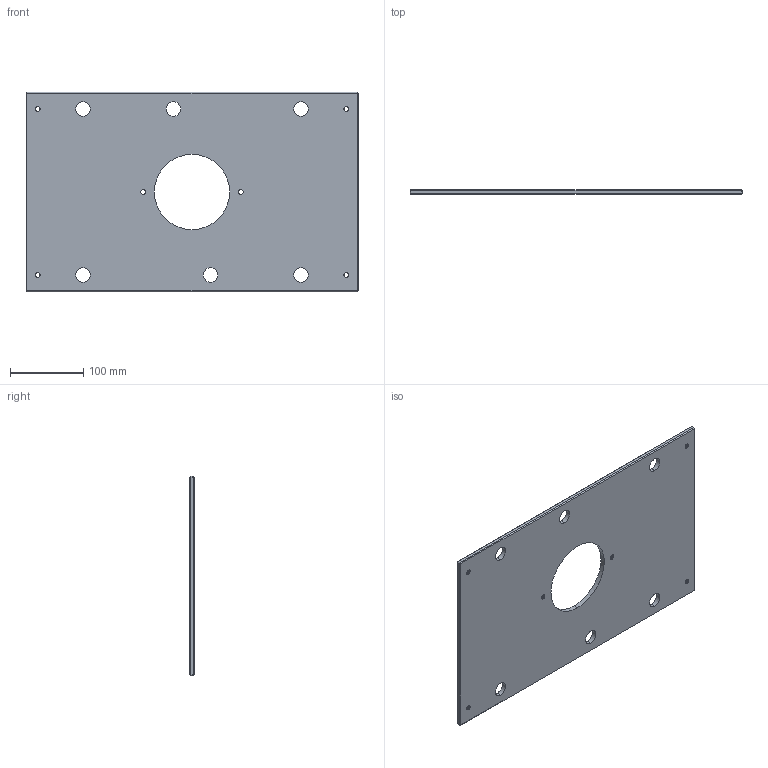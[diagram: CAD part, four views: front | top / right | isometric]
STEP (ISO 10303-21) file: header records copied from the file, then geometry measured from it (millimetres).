
FILE_DESCRIPTION (( 'STEP AP214' ), '1' );
FILE_NAME ('ME-0619-CH-1118-A.STEP', '2020-02-10T14:36:25', ( '' ), ( '' ), 'SwSTEP 2.0', 'SolidWorks 2018', '' );
FILE_SCHEMA (( 'AUTOMOTIVE_DESIGN' ));
Length unit declared in the file: inch
Products named in the file (1): ME-0619-CH-1118-A
Bounding box: 454.02 x 6.35 x 273.05 mm (x, y, z)
Volume: 717258.4 mm3; surface area: 239224.3 mm2
Topology: 1 solids, 1 shells, 64 faces, 150 edges, 88 vertices
Faces by surface type: cylinder 26, plane 26, cone 12
Entity records: 1902 total; most frequent: DIRECTION 344, CARTESIAN_POINT 303, ORIENTED_EDGE 300, EDGE_CURVE 150, AXIS2_PLACEMENT_3D 129, EDGE_LOOP 90, VERTEX_POINT 88, VECTOR 86
